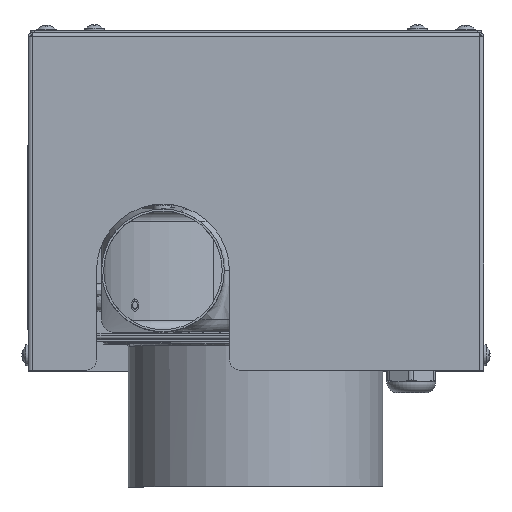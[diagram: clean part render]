
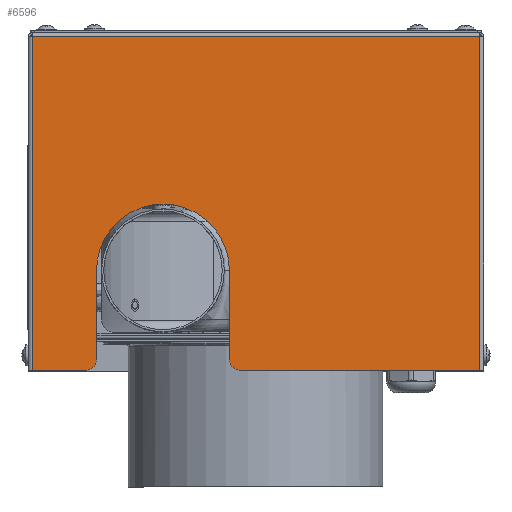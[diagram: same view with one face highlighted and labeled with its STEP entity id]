
A CAD part, top view. The second image highlights one B-rep face of the part: STEP entity #6596.
In plain terms, the highlighted planar face has unit normal (0, 0, 1).
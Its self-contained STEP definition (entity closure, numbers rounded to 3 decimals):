
#6596=ADVANCED_FACE('',(#28554),#28556,.T.);
#28554=FACE_BOUND('',#28555,.T.);
#28555=EDGE_LOOP('',(#49521,#49522,#49523,#49524,#49525,#49526,#49527,#49528,#49529,
#49530));
#28556=PLANE('',#28557);
#28557=AXIS2_PLACEMENT_3D('',#28558,#28559,#28560);
#28558=CARTESIAN_POINT('',(-126.699,-244.,134.5));
#28559=DIRECTION('',(0.,0.,1.));
#28560=DIRECTION('',(1.,0.,0.));
#49521=ORIENTED_EDGE('',*,*,#56626,.F.);
#49522=ORIENTED_EDGE('',*,*,#56636,.T.);
#49523=ORIENTED_EDGE('',*,*,#56634,.T.);
#49524=ORIENTED_EDGE('',*,*,#56632,.T.);
#49525=ORIENTED_EDGE('',*,*,#56630,.F.);
#49526=ORIENTED_EDGE('',*,*,#56623,.T.);
#49527=ORIENTED_EDGE('',*,*,#56600,.T.);
#49528=ORIENTED_EDGE('',*,*,#56956,.T.);
#49529=ORIENTED_EDGE('',*,*,#56641,.T.);
#49530=ORIENTED_EDGE('',*,*,#56627,.T.);
#56600=EDGE_CURVE('',#71519,#71480,#71857,.T.);
#56623=EDGE_CURVE('',#71892,#71519,#71894,.T.);
#56626=EDGE_CURVE('',#71897,#71895,#71899,.F.);
#56627=EDGE_CURVE('',#71569,#71895,#71900,.T.);
#56630=EDGE_CURVE('',#71892,#71904,#71905,.F.);
#56632=EDGE_CURVE('',#71907,#71904,#71908,.F.);
#56634=EDGE_CURVE('',#71910,#71907,#71911,.F.);
#56636=EDGE_CURVE('',#71897,#71910,#71913,.F.);
#56641=EDGE_CURVE('',#71566,#71569,#71919,.T.);
#56956=EDGE_CURVE('',#71480,#71566,#72273,.T.);
#71480=VERTEX_POINT('',#91508);
#71519=VERTEX_POINT('',#91606);
#71566=VERTEX_POINT('',#91719);
#71569=VERTEX_POINT('',#91727);
#71857=LINE('',#93090,#93091);
#71892=VERTEX_POINT('',#93179);
#71894=LINE('',#93183,#93184);
#71895=VERTEX_POINT('',#93186);
#71897=VERTEX_POINT('',#93190);
#71899=CIRCLE('',#93194,5.);
#71900=LINE('',#93198,#93199);
#71904=VERTEX_POINT('',#93209);
#71905=CIRCLE('',#93210,5.);
#71907=VERTEX_POINT('',#93217);
#71908=LINE('',#93218,#93219);
#71910=VERTEX_POINT('',#93224);
#71911=CIRCLE('',#93225,32.5);
#71913=LINE('',#93232,#93233);
#71919=LINE('',#93248,#93249);
#72273=LINE('',#94226,#94227);
#91508=CARTESIAN_POINT('',(109.5,84.5,134.5));
#91606=CARTESIAN_POINT('',(109.5,-78.5,134.5));
#91719=CARTESIAN_POINT('',(-109.5,84.5,134.5));
#91727=CARTESIAN_POINT('',(-109.5,-78.5,134.5));
#93090=CARTESIAN_POINT('',(109.5,-78.5,134.5));
#93091=VECTOR('',#93092,1.);
#93092=DIRECTION('',(0.,1.,0.));
#93179=CARTESIAN_POINT('',(-8.,-78.5,134.5));
#93183=CARTESIAN_POINT('',(-8.,-78.5,134.5));
#93184=VECTOR('',#93185,1.);
#93185=DIRECTION('',(1.,0.,0.));
#93186=CARTESIAN_POINT('',(-83.,-78.5,134.5));
#93190=CARTESIAN_POINT('',(-78.,-73.5,134.5));
#93194=AXIS2_PLACEMENT_3D('',#93195,#93196,#93197);
#93195=CARTESIAN_POINT('',(-83.,-73.5,134.5));
#93196=DIRECTION('',(0.,0.,1.));
#93197=DIRECTION('',(0.,-1.,0.));
#93198=CARTESIAN_POINT('',(-109.5,-78.5,134.5));
#93199=VECTOR('',#93200,1.);
#93200=DIRECTION('',(1.,0.,0.));
#93209=CARTESIAN_POINT('',(-13.,-73.5,134.5));
#93210=AXIS2_PLACEMENT_3D('',#93211,#93212,#93213);
#93211=CARTESIAN_POINT('',(-8.,-73.5,134.5));
#93212=DIRECTION('',(0.,0.,1.));
#93213=DIRECTION('',(-1.,0.,0.));
#93217=CARTESIAN_POINT('',(-13.,-29.8,134.5));
#93218=CARTESIAN_POINT('',(-13.,-73.5,134.5));
#93219=VECTOR('',#93220,1.);
#93220=DIRECTION('',(0.,1.,0.));
#93224=CARTESIAN_POINT('',(-78.,-29.8,134.5));
#93225=AXIS2_PLACEMENT_3D('',#93226,#93227,#93228);
#93226=CARTESIAN_POINT('',(-45.5,-29.8,134.5));
#93227=DIRECTION('',(0.,0.,1.));
#93228=DIRECTION('',(1.,0.,0.));
#93232=CARTESIAN_POINT('',(-78.,-29.8,134.5));
#93233=VECTOR('',#93234,1.);
#93234=DIRECTION('',(0.,-1.,0.));
#93248=CARTESIAN_POINT('',(-109.5,84.5,134.5));
#93249=VECTOR('',#93250,1.);
#93250=DIRECTION('',(0.,-1.,0.));
#94226=CARTESIAN_POINT('',(109.5,84.5,134.5));
#94227=VECTOR('',#94228,1.);
#94228=DIRECTION('',(-1.,0.,0.));
